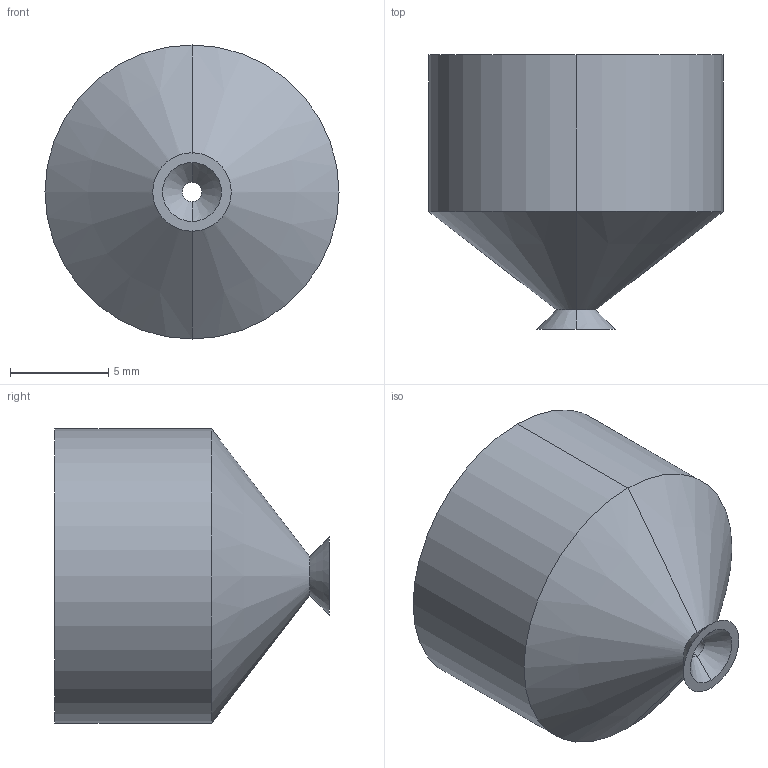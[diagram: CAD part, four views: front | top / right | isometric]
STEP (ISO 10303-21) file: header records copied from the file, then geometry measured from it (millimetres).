
FILE_DESCRIPTION (( 'STEP AP214' ), '1' );
FILE_NAME ('VSH-M4.STEP', '2019-11-30T08:58:23', ( '微软用户' ), ( '微软中国' ), 'SwSTEP 2.0', 'SolidWorks 2016', '' );
FILE_SCHEMA (( 'AUTOMOTIVE_DESIGN' ));
Length unit declared in the file: millimetre
Products named in the file (1): VSH-M4
Bounding box: 15 x 14 x 15 mm (x, y, z)
Volume: 1248.1 mm3; surface area: 1137.1 mm2
Topology: 1 solids, 1 shells, 18 faces, 36 edges, 22 vertices
Faces by surface type: cylinder 8, cone 6, plane 4
Entity records: 512 total; most frequent: DIRECTION 96, CARTESIAN_POINT 77, ORIENTED_EDGE 72, AXIS2_PLACEMENT_3D 41, EDGE_CURVE 36, VERTEX_POINT 22, EDGE_LOOP 22, CIRCLE 22
